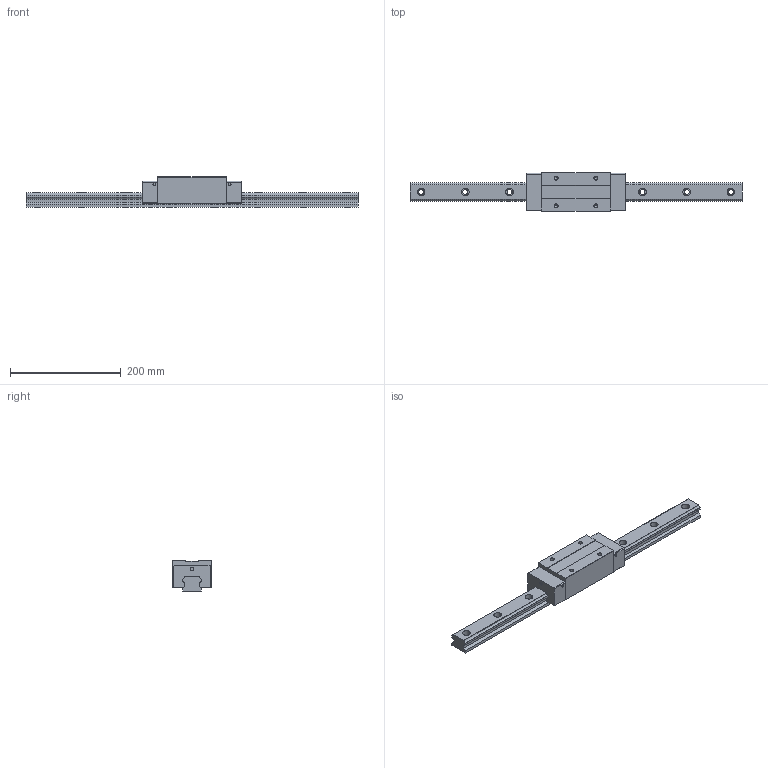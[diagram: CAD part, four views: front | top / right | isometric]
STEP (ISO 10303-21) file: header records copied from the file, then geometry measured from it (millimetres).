
FILE_DESCRIPTION (( 'STEP AP203' ), '1' );
FILE_NAME ('TRH35VE-DZ.STEP', '2024-07-10T08:21:37', ( '' ), ( '' ), 'SwSTEP 2.0', 'SolidWorks 2022', '' );
FILE_SCHEMA (( 'CONFIG_CONTROL_DESIGN' ));
Length unit declared in the file: millimetre
Products named in the file (1): TRH35VE-DZ
Bounding box: 600 x 70 x 55 mm (x, y, z)
Volume: 903644.6 mm3; surface area: 138142.4 mm2
Topology: 2 solids, 2 shells, 186 faces, 488 edges, 316 vertices
Faces by surface type: cylinder 88, plane 82, cone 16
Entity records: 5819 total; most frequent: DIRECTION 1038, CARTESIAN_POINT 983, ORIENTED_EDGE 960, EDGE_CURVE 480, AXIS2_PLACEMENT_3D 371, VERTEX_POINT 316, LINE 296, VECTOR 296
